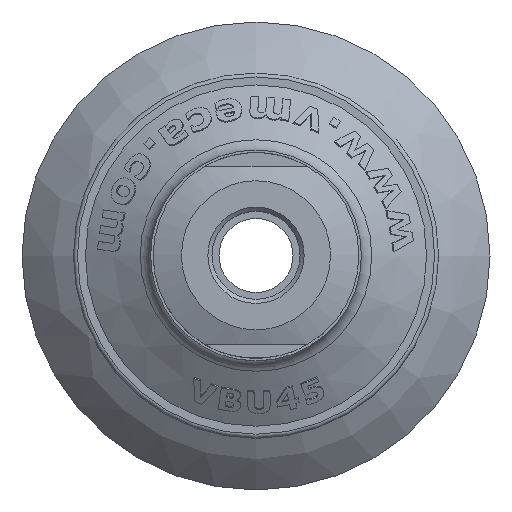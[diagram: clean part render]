
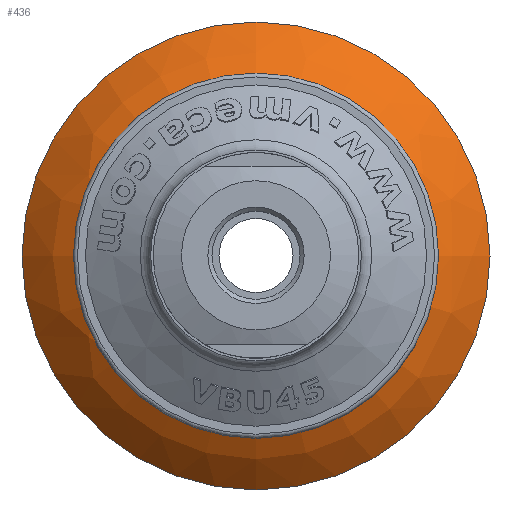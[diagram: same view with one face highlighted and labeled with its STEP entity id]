
A CAD part, top view. The second image highlights one B-rep face of the part: STEP entity #436.
In plain terms, the highlighted free-form (B-spline) face has degree [3, 3] with [4, 7] control points.
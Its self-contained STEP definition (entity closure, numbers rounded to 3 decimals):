
#436 = ADVANCED_FACE( '', ( #1175, #1176 ), #1177, .T. );
#1175 = FACE_OUTER_BOUND( '', #3669, .T. );
#1176 = FACE_OUTER_BOUND( '', #3670, .T. );
#1177 = ( BOUNDED_SURFACE(  )B_SPLINE_SURFACE( 3, 3, ( ( #3673, #3674, #3675, #3676, #3677, #3678, #3679 ), ( #3680, #3681, #3682, #3683, #3684, #3685, #3686 ), ( #3687, #3688, #3689, #3690, #3691, #3692, #3693 ), ( #3694, #3695, #3696, #3697, #3698, #3699, #3700 ) ), .UNSPECIFIED., .F., .T., .F. )B_SPLINE_SURFACE_WITH_KNOTS( ( 4, 4 ), ( 4, 3, 4 ), ( 0., 6.283 ), ( 0.717, 1.004, 1.291 ), .UNSPECIFIED. )GEOMETRIC_REPRESENTATION_ITEM(  )RATIONAL_B_SPLINE_SURFACE( ( ( 1., 0.333, 0.333, 1., 0.333, 0.333, 1. ), ( 0.973, 0.324, 0.324, 0.973, 0.324, 0.324, 0.973 ), ( 0.973, 0.324, 0.324, 0.973, 0.324, 0.324, 0.973 ), ( 1., 0.333, 0.333, 1., 0.333, 0.333, 1. ) ) )REPRESENTATION_ITEM( '' )SURFACE(  ) );
#3669 = EDGE_LOOP( '', ( #11769 ) );
#3670 = EDGE_LOOP( '', ( #11770 ) );
#3673 = CARTESIAN_POINT( '', ( 12.452, 0., -9.198 ) );
#3674 = CARTESIAN_POINT( '', ( 12.452, 24.904, -9.198 ) );
#3675 = CARTESIAN_POINT( '', ( -12.452, 24.904, -9.198 ) );
#3676 = CARTESIAN_POINT( '', ( -12.452, 0., -9.198 ) );
#3677 = CARTESIAN_POINT( '', ( -12.452, -24.904, -9.198 ) );
#3678 = CARTESIAN_POINT( '', ( 12.452, -24.904, -9.198 ) );
#3679 = CARTESIAN_POINT( '', ( 12.452, 0., -9.198 ) );
#3680 = CARTESIAN_POINT( '', ( 16.472, 0., -10.353 ) );
#3681 = CARTESIAN_POINT( '', ( 16.472, 32.943, -10.353 ) );
#3682 = CARTESIAN_POINT( '', ( -16.472, 32.943, -10.353 ) );
#3683 = CARTESIAN_POINT( '', ( -16.472, 0., -10.353 ) );
#3684 = CARTESIAN_POINT( '', ( -16.472, -32.943, -10.353 ) );
#3685 = CARTESIAN_POINT( '', ( 16.472, -32.943, -10.353 ) );
#3686 = CARTESIAN_POINT( '', ( 16.472, 0., -10.353 ) );
#3687 = CARTESIAN_POINT( '', ( 20., 0., -12.598 ) );
#3688 = CARTESIAN_POINT( '', ( 20., 40.001, -12.598 ) );
#3689 = CARTESIAN_POINT( '', ( -20., 40.001, -12.598 ) );
#3690 = CARTESIAN_POINT( '', ( -20., 0., -12.598 ) );
#3691 = CARTESIAN_POINT( '', ( -20., -40.001, -12.598 ) );
#3692 = CARTESIAN_POINT( '', ( 20., -40.001, -12.598 ) );
#3693 = CARTESIAN_POINT( '', ( 20., 0., -12.598 ) );
#3694 = CARTESIAN_POINT( '', ( 22.75, 0., -15.749 ) );
#3695 = CARTESIAN_POINT( '', ( 22.75, 45.5, -15.749 ) );
#3696 = CARTESIAN_POINT( '', ( -22.75, 45.5, -15.749 ) );
#3697 = CARTESIAN_POINT( '', ( -22.75, 0., -15.749 ) );
#3698 = CARTESIAN_POINT( '', ( -22.75, -45.5, -15.749 ) );
#3699 = CARTESIAN_POINT( '', ( 22.75, -45.5, -15.749 ) );
#3700 = CARTESIAN_POINT( '', ( 22.75, 0., -15.749 ) );
#11769 = ORIENTED_EDGE( '', *, *, #14074, .T. );
#11770 = ORIENTED_EDGE( '', *, *, #14075, .F. );
#14074 = EDGE_CURVE( '', #15376, #15376, #15377, .T. );
#14075 = EDGE_CURVE( '', #15378, #15378, #15379, .T. );
#15376 = VERTEX_POINT( '', #18500 );
#15377 = CIRCLE( '', #18501, 22.75 );
#15378 = VERTEX_POINT( '', #18502 );
#15379 = CIRCLE( '', #18503, 12.452 );
#18500 = CARTESIAN_POINT( '', ( 22.75, 0., -15.749 ) );
#18501 = AXIS2_PLACEMENT_3D( '', #23883, #23884, #23885 );
#18502 = CARTESIAN_POINT( '', ( 12.452, 0., -9.198 ) );
#18503 = AXIS2_PLACEMENT_3D( '', #23886, #23887, #23888 );
#23883 = CARTESIAN_POINT( '', ( 0., 0., -15.749 ) );
#23884 = DIRECTION( '', ( 0., 0., 1. ) );
#23885 = DIRECTION( '', ( 1., 0., 0. ) );
#23886 = CARTESIAN_POINT( '', ( 0., 0., -9.198 ) );
#23887 = DIRECTION( '', ( 0., 0., 1. ) );
#23888 = DIRECTION( '', ( 1., 0., 0. ) );
